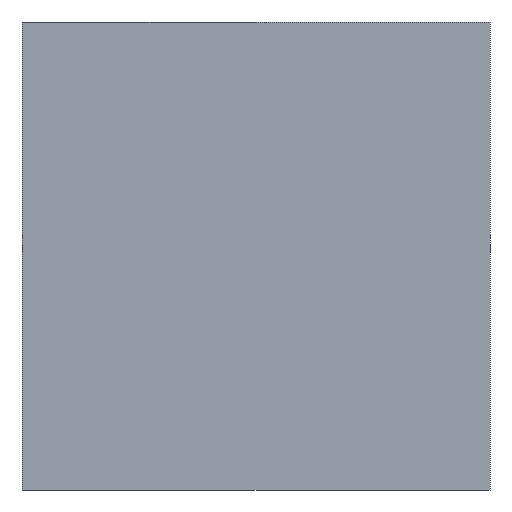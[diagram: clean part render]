
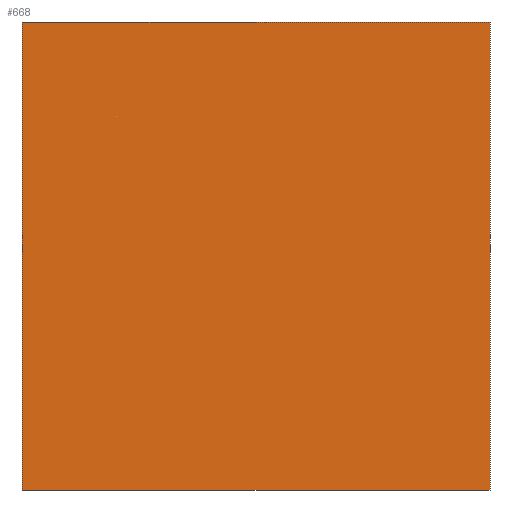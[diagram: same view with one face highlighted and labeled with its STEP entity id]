
A CAD part, front view. The second image highlights one B-rep face of the part: STEP entity #668.
In plain terms, the highlighted planar face has unit normal (0, -1, 0).
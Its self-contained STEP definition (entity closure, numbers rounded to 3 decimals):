
#87 = VECTOR ( 'NONE', #1708, 1000. ) ;
#117 = LINE ( 'NONE', #806, #87 ) ;
#200 = DIRECTION ( 'NONE',  ( 0., 1., 0. ) ) ;
#355 = VERTEX_POINT ( 'NONE', #2570 ) ;
#490 = LINE ( 'NONE', #772, #1529 ) ;
#495 = ORIENTED_EDGE ( 'NONE', *, *, #1024, .F. ) ;
#504 = EDGE_LOOP ( 'NONE', ( #887, #3568, #495, #4218 ) ) ;
#649 = VECTOR ( 'NONE', #762, 1000. ) ;
#668 = ADVANCED_FACE ( 'NONE', ( #889 ), #1812, .F. ) ;
#671 = CARTESIAN_POINT ( 'NONE',  ( 460., 0., 460. ) ) ;
#762 = DIRECTION ( 'NONE',  ( 1., 0., 0. ) ) ;
#772 = CARTESIAN_POINT ( 'NONE',  ( -460., 0., 460. ) ) ;
#806 = CARTESIAN_POINT ( 'NONE',  ( 460., 0., 460. ) ) ;
#873 = EDGE_CURVE ( 'NONE', #1213, #355, #117, .T. ) ;
#887 = ORIENTED_EDGE ( 'NONE', *, *, #2363, .T. ) ;
#889 = FACE_OUTER_BOUND ( 'NONE', #504, .T. ) ;
#953 = DIRECTION ( 'NONE',  ( 1., 0., 0. ) ) ;
#1024 = EDGE_CURVE ( 'NONE', #3386, #1213, #3975, .T. ) ;
#1138 = CARTESIAN_POINT ( 'NONE',  ( 460., 0., 460. ) ) ;
#1213 = VERTEX_POINT ( 'NONE', #1591 ) ;
#1378 = LINE ( 'NONE', #4046, #649 ) ;
#1458 = AXIS2_PLACEMENT_3D ( 'NONE', #1138, #200, #1486 ) ;
#1485 = VERTEX_POINT ( 'NONE', #2295 ) ;
#1486 = DIRECTION ( 'NONE',  ( 0., 0., 1. ) ) ;
#1529 = VECTOR ( 'NONE', #2116, 1000. ) ;
#1591 = CARTESIAN_POINT ( 'NONE',  ( 460., 0., 460. ) ) ;
#1614 = EDGE_CURVE ( 'NONE', #3386, #1485, #490, .T. ) ;
#1708 = DIRECTION ( 'NONE',  ( 0., 0., -1. ) ) ;
#1812 = PLANE ( 'NONE',  #1458 ) ;
#2116 = DIRECTION ( 'NONE',  ( 0., 0., -1. ) ) ;
#2295 = CARTESIAN_POINT ( 'NONE',  ( -460., 0., -460. ) ) ;
#2351 = VECTOR ( 'NONE', #953, 1000. ) ;
#2363 = EDGE_CURVE ( 'NONE', #1485, #355, #1378, .T. ) ;
#2570 = CARTESIAN_POINT ( 'NONE',  ( 460., 0., -460. ) ) ;
#2917 = CARTESIAN_POINT ( 'NONE',  ( -460., 0., 460. ) ) ;
#3386 = VERTEX_POINT ( 'NONE', #2917 ) ;
#3568 = ORIENTED_EDGE ( 'NONE', *, *, #873, .F. ) ;
#3975 = LINE ( 'NONE', #671, #2351 ) ;
#4046 = CARTESIAN_POINT ( 'NONE',  ( 460., 0., -460. ) ) ;
#4218 = ORIENTED_EDGE ( 'NONE', *, *, #1614, .T. ) ;
